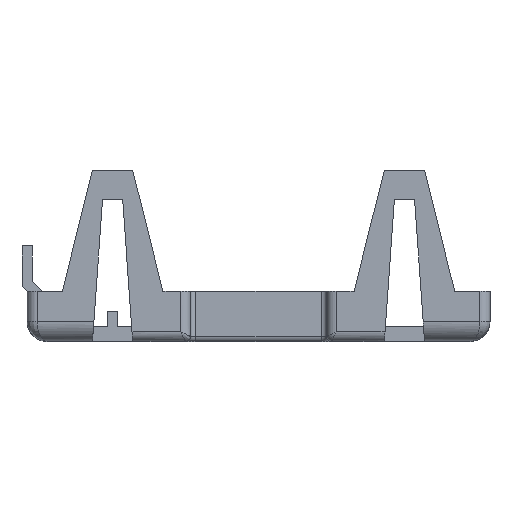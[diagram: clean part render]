
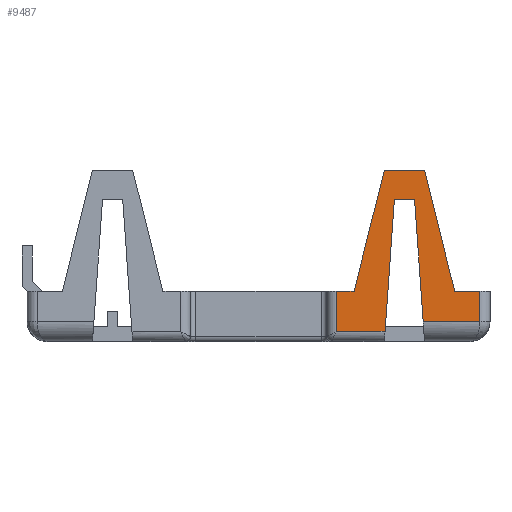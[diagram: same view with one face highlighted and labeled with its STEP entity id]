
A CAD part, front view. The second image highlights one B-rep face of the part: STEP entity #9487.
In plain terms, the highlighted planar face has unit normal (0, -1, 0).
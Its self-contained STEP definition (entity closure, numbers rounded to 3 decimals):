
#3 = DIRECTION ( 'NONE',  ( 0.071, 0., 0.997 ) ) ;
#468 = CARTESIAN_POINT ( 'NONE',  ( 12.5, -23.75, 17. ) ) ;
#577 = CARTESIAN_POINT ( 'NONE',  ( -23., -23.75, 5. ) ) ;
#964 = DIRECTION ( 'NONE',  ( 0., 1., 0. ) ) ;
#975 = VECTOR ( 'NONE', #9637, 1000. ) ;
#1025 = VERTEX_POINT ( 'NONE', #2208 ) ;
#1033 = DIRECTION ( 'NONE',  ( 0., 0., 1. ) ) ;
#1171 = LINE ( 'NONE', #8625, #9236 ) ;
#1396 = LINE ( 'NONE', #577, #5358 ) ;
#1549 = CARTESIAN_POINT ( 'NONE',  ( 7.75, -23.75, 5. ) ) ;
#1553 = VERTEX_POINT ( 'NONE', #3822 ) ;
#1622 = CARTESIAN_POINT ( 'NONE',  ( 12.571, -23.75, 1. ) ) ;
#1636 = EDGE_CURVE ( 'NONE', #5739, #1648, #6920, .T. ) ;
#1648 = VERTEX_POINT ( 'NONE', #3359 ) ;
#1737 = PLANE ( 'NONE',  #4750 ) ;
#1793 = EDGE_CURVE ( 'NONE', #4968, #1553, #6891, .T. ) ;
#1923 = LINE ( 'NONE', #3111, #3764 ) ;
#1994 = EDGE_CURVE ( 'NONE', #4968, #3802, #3475, .T. ) ;
#2094 = CARTESIAN_POINT ( 'NONE',  ( 22., -23.75, 2. ) ) ;
#2179 = EDGE_CURVE ( 'NONE', #1648, #6473, #6284, .T. ) ;
#2208 = CARTESIAN_POINT ( 'NONE',  ( 22., -23.75, 2. ) ) ;
#2213 = CARTESIAN_POINT ( 'NONE',  ( 19.5, -23.75, 5. ) ) ;
#2438 = DIRECTION ( 'NONE',  ( 1., 0., 0. ) ) ;
#2587 = CARTESIAN_POINT ( 'NONE',  ( 22., -23.75, 5. ) ) ;
#2674 = CARTESIAN_POINT ( 'NONE',  ( 7.75, -23.75, 5. ) ) ;
#2750 = DIRECTION ( 'NONE',  ( 0.071, 0., -0.997 ) ) ;
#2850 = EDGE_CURVE ( 'NONE', #3295, #8953, #6611, .T. ) ;
#3111 = CARTESIAN_POINT ( 'NONE',  ( 12.5, -23.75, 1. ) ) ;
#3285 = CARTESIAN_POINT ( 'NONE',  ( 15.5, -23.75, 14.1 ) ) ;
#3295 = VERTEX_POINT ( 'NONE', #3285 ) ;
#3359 = CARTESIAN_POINT ( 'NONE',  ( 16.5, -23.75, 17. ) ) ;
#3475 = LINE ( 'NONE', #9674, #975 ) ;
#3764 = VECTOR ( 'NONE', #9339, 1000. ) ;
#3802 = VERTEX_POINT ( 'NONE', #5814 ) ;
#3822 = CARTESIAN_POINT ( 'NONE',  ( 7.75, -23.75, 1. ) ) ;
#3851 = VECTOR ( 'NONE', #1033, 1000. ) ;
#4363 = ORIENTED_EDGE ( 'NONE', *, *, #6764, .T. ) ;
#4520 = ORIENTED_EDGE ( 'NONE', *, *, #2850, .T. ) ;
#4527 = VERTEX_POINT ( 'NONE', #1622 ) ;
#4750 = AXIS2_PLACEMENT_3D ( 'NONE', #5688, #964, #6467 ) ;
#4968 = VERTEX_POINT ( 'NONE', #1549 ) ;
#5027 = ORIENTED_EDGE ( 'NONE', *, *, #6474, .T. ) ;
#5105 = CARTESIAN_POINT ( 'NONE',  ( 16.5, -23.75, 0. ) ) ;
#5193 = ORIENTED_EDGE ( 'NONE', *, *, #1793, .T. ) ;
#5200 = LINE ( 'NONE', #2094, #9067 ) ;
#5202 = VERTEX_POINT ( 'NONE', #5776 ) ;
#5358 = VECTOR ( 'NONE', #8404, 1000. ) ;
#5365 = CARTESIAN_POINT ( 'NONE',  ( 22., -23.75, 5. ) ) ;
#5584 = FACE_OUTER_BOUND ( 'NONE', #7339, .T. ) ;
#5646 = CARTESIAN_POINT ( 'NONE',  ( 12.5, -23.75, 17. ) ) ;
#5688 = CARTESIAN_POINT ( 'NONE',  ( -23., -23.75, 5. ) ) ;
#5739 = VERTEX_POINT ( 'NONE', #468 ) ;
#5776 = CARTESIAN_POINT ( 'NONE',  ( 13.5, -23.75, 14.1 ) ) ;
#5814 = CARTESIAN_POINT ( 'NONE',  ( 9.5, -23.75, 5. ) ) ;
#5899 = DIRECTION ( 'NONE',  ( 0.243, 0., 0.97 ) ) ;
#5941 = LINE ( 'NONE', #2587, #3851 ) ;
#6240 = ORIENTED_EDGE ( 'NONE', *, *, #8985, .T. ) ;
#6284 = LINE ( 'NONE', #7677, #7632 ) ;
#6467 = DIRECTION ( 'NONE',  ( 0., 0., 1. ) ) ;
#6473 = VERTEX_POINT ( 'NONE', #2213 ) ;
#6474 = EDGE_CURVE ( 'NONE', #1553, #4527, #1923, .T. ) ;
#6560 = EDGE_CURVE ( 'NONE', #4527, #5202, #1171, .T. ) ;
#6611 = LINE ( 'NONE', #5105, #7095 ) ;
#6758 = CARTESIAN_POINT ( 'NONE',  ( 16.358, -23.75, 2. ) ) ;
#6764 = EDGE_CURVE ( 'NONE', #5202, #3295, #7559, .T. ) ;
#6891 = LINE ( 'NONE', #2674, #8946 ) ;
#6920 = LINE ( 'NONE', #5646, #8722 ) ;
#7095 = VECTOR ( 'NONE', #2750, 1000. ) ;
#7151 = DIRECTION ( 'NONE',  ( 0., 0., -1. ) ) ;
#7298 = VECTOR ( 'NONE', #2438, 1000. ) ;
#7339 = EDGE_LOOP ( 'NONE', ( #4520, #6240, #10158, #9791, #8839, #7431, #7601, #10117, #5193, #5027, #9142, #4363 ) ) ;
#7431 = ORIENTED_EDGE ( 'NONE', *, *, #1636, .F. ) ;
#7437 = EDGE_CURVE ( 'NONE', #6473, #9842, #1396, .T. ) ;
#7535 = LINE ( 'NONE', #8972, #9084 ) ;
#7559 = LINE ( 'NONE', #8659, #7298 ) ;
#7601 = ORIENTED_EDGE ( 'NONE', *, *, #8144, .F. ) ;
#7609 = DIRECTION ( 'NONE',  ( 0.243, 0., -0.97 ) ) ;
#7632 = VECTOR ( 'NONE', #7609, 1000. ) ;
#7677 = CARTESIAN_POINT ( 'NONE',  ( 16.5, -23.75, 17. ) ) ;
#8002 = DIRECTION ( 'NONE',  ( 1., 0., 0. ) ) ;
#8144 = EDGE_CURVE ( 'NONE', #3802, #5739, #7535, .T. ) ;
#8351 = DIRECTION ( 'NONE',  ( 1., 0., 0. ) ) ;
#8404 = DIRECTION ( 'NONE',  ( 1., 0., 0. ) ) ;
#8475 = EDGE_CURVE ( 'NONE', #1025, #9842, #5941, .T. ) ;
#8625 = CARTESIAN_POINT ( 'NONE',  ( 13.5, -23.75, 14.1 ) ) ;
#8659 = CARTESIAN_POINT ( 'NONE',  ( 15.5, -23.75, 14.1 ) ) ;
#8722 = VECTOR ( 'NONE', #8002, 1000. ) ;
#8839 = ORIENTED_EDGE ( 'NONE', *, *, #2179, .F. ) ;
#8946 = VECTOR ( 'NONE', #7151, 1000. ) ;
#8953 = VERTEX_POINT ( 'NONE', #6758 ) ;
#8972 = CARTESIAN_POINT ( 'NONE',  ( 9.5, -23.75, 5. ) ) ;
#8985 = EDGE_CURVE ( 'NONE', #8953, #1025, #5200, .T. ) ;
#9067 = VECTOR ( 'NONE', #8351, 1000. ) ;
#9084 = VECTOR ( 'NONE', #5899, 1000. ) ;
#9142 = ORIENTED_EDGE ( 'NONE', *, *, #6560, .T. ) ;
#9236 = VECTOR ( 'NONE', #3, 1000. ) ;
#9339 = DIRECTION ( 'NONE',  ( 1., 0., 0. ) ) ;
#9487 = ADVANCED_FACE ( 'NONE', ( #5584 ), #1737, .F. ) ;
#9637 = DIRECTION ( 'NONE',  ( 1., 0., 0. ) ) ;
#9674 = CARTESIAN_POINT ( 'NONE',  ( -23., -23.75, 5. ) ) ;
#9791 = ORIENTED_EDGE ( 'NONE', *, *, #7437, .F. ) ;
#9842 = VERTEX_POINT ( 'NONE', #5365 ) ;
#10117 = ORIENTED_EDGE ( 'NONE', *, *, #1994, .F. ) ;
#10158 = ORIENTED_EDGE ( 'NONE', *, *, #8475, .T. ) ;
